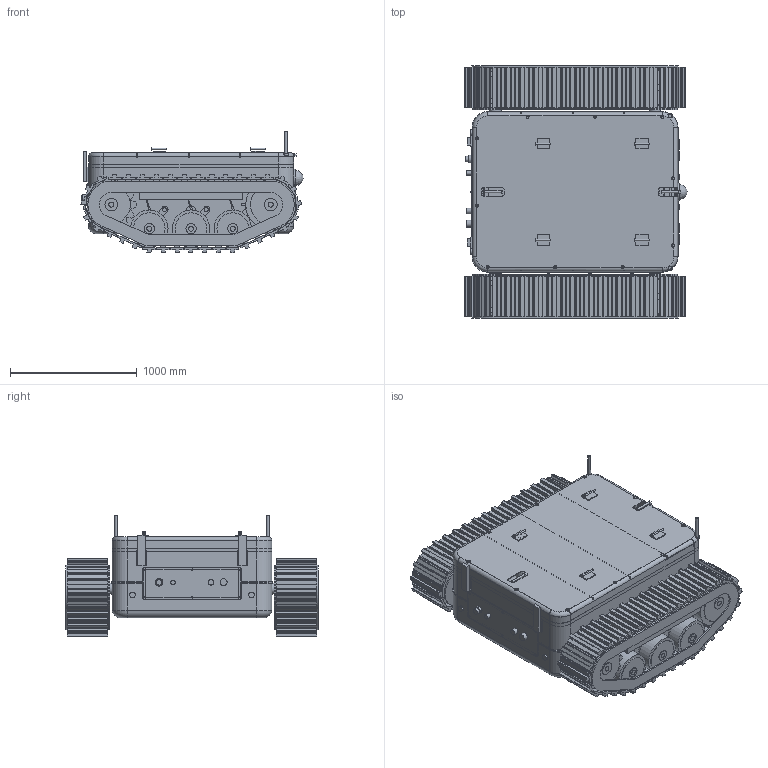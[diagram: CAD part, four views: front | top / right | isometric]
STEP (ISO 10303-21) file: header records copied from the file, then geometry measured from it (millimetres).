
FILE_DESCRIPTION(('Open CASCADE Model'),'2;1');
FILE_NAME('Open CASCADE Shape Model','2026-11-24T20:12:53',('Author'),( 'Open CASCADE'),'Open CASCADE STEP processor 7.9','Open CASCADE 7.9' ,'Unknown');
FILE_SCHEMA(('AUTOMOTIVE_DESIGN { 1 0 10303 214 1 1 1 1 }'));
Length unit declared in the file: centimetre
Products named in the file (266): AKORA_C02_TOP_COVER_CLOSED; 01_MAIN_BODY; BODY_LOWER; BODY_LOWER_TUB; BODY_JOINT_FLANGE_INNER; BODY_UPPER; BODY_UPPER_TUB; BODY_JOINT_BEAD; COVER_GASKET; COVER_GASKET_EPDM_10x8; PEDESTAL_GROMMET_600_L; PEDESTAL_GROMMET_600_R; PEDESTAL_GROMMET_1380_L; PEDESTAL_GROMMET_1380_R; SERVICE_PANEL_REAR_GASKET; COVER_INTERLOCK; COVER_SEAT_RING_FEMALE; COVER_LOCKS; COVER_QUARTER_TURN_STUD_01; COVER_RECEPTACLE_01; COVER_QUARTER_TURN_STUD_02; COVER_RECEPTACLE_02; COVER_QUARTER_TURN_STUD_03; COVER_RECEPTACLE_03; COVER_QUARTER_TURN_STUD_04; COVER_RECEPTACLE_04; COVER_QUARTER_TURN_STUD_05; COVER_RECEPTACLE_05; COVER_QUARTER_TURN_STUD_06; COVER_RECEPTACLE_06; COVER_QUARTER_TURN_STUD_07; COVER_RECEPTACLE_07; COVER_QUARTER_TURN_STUD_08; COVER_RECEPTACLE_08; COVER_QUARTER_TURN_STUD_09; COVER_RECEPTACLE_09; COVER_QUARTER_TURN_STUD_10; COVER_RECEPTACLE_10; INTERNAL_FRAME; FRAME_RAIL_L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
Assembly tree (333 placements, depth 5):
  AKORA_C02_TOP_COVER_CLOSED
    01_MAIN_BODY
      BODY_LOWER
        BODY_LOWER_TUB
        BODY_JOINT_FLANGE_INNER
      BODY_UPPER
        BODY_UPPER_TUB
        BODY_JOINT_BEAD
      COVER_GASKET
        COVER_GASKET_EPDM_10x8
        PEDESTAL_GROMMET_600_L
        PEDESTAL_GROMMET_600_R
        PEDESTAL_GROMMET_1380_L
        PEDESTAL_GROMMET_1380_R
        SERVICE_PANEL_REAR_GASKET
      COVER_INTERLOCK
        COVER_SEAT_RING_FEMALE
      COVER_LOCKS
        COVER_QUARTER_TURN_STUD_01
        COVER_RECEPTACLE_01
        COVER_QUARTER_TURN_STUD_02
        COVER_RECEPTACLE_02
        COVER_QUARTER_TURN_STUD_03
        COVER_RECEPTACLE_03
        COVER_QUARTER_TURN_STUD_04
        COVER_RECEPTACLE_04
        COVER_QUARTER_TURN_STUD_05
        COVER_RECEPTACLE_05
        COVER_QUARTER_TURN_STUD_06
        COVER_RECEPTACLE_06
        COVER_QUARTER_TURN_STUD_07
        COVER_RECEPTACLE_07
        COVER_QUARTER_TURN_STUD_08
        COVER_RECEPTACLE_08
        COVER_QUARTER_TURN_STUD_09
        COVER_RECEPTACLE_09
        COVER_QUARTER_TURN_STUD_10
        COVER_RECEPTACLE_10
      INTERNAL_FRAME
        FRAME_RAIL_L
        FRAME_RAIL_R
        FRAME_CROSS_1
        FRAME_CROSS_2
        FRAME_CROSS_3
        FRAME_CROSS_4
        FRAME_CROSS_5
        TRACK_MOTOR_PLATE_L
        TRACK_MOTOR_PLATE_R
      MOUNTING_BRACKETS
        FRAME_WALL_BRACKET_L_400
        FRAME_WALL_BRACKET_L_1300
        FRAME_WALL_BRACKET_R_400
        FRAME_WALL_BRACKET_R_1300
        P1_PEDESTAL_600_L
        P1_PEDESTAL_600_R
        P1_PEDESTAL_1380_L
        P1_PEDESTAL_1380_R
        REAR_LANDING_BRACKET_L
        REAR_LANDING_BRACKET_R
      SERVICE_PANELS
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Bounding box: 1754.89 x 1994 x 960.76 mm (x, y, z)
Volume: 489448220.6 mm3; surface area: 50376156.4 mm2
Topology: 297 solids, 301 shells, 4552 faces, 11201 edges, 7458 vertices
Faces by surface type: plane 3067, cylinder 1459, torus 16, sphere 8, revolution 2
Full cylindrical faces by diameter (mm): 8 x18, 9 x20, 9.2 x10, 10 x22, 10.5 x4, 12 x6, 13 x4, 14 x4, 16 x24, 20 x15, 22 x10, 24 x15, 28 x16, 30 x12, 32 x18, 36 x2, 40 x72, 44 x11, 48 x4, 56 x2, 60 x5, 62 x4, 72 x20, 76 x4, 80 x14, 90 x12, 100 x4, 140 x1, 160 x4, 190 x2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
Entity records: 171264 total; most frequent: CARTESIAN_POINT 35126, DIRECTION 24893, LINE 15226, VECTOR 15226, ORIENTED_EDGE 12584, PCURVE 12584, DEFINITIONAL_REPRESENTATION 12584, EDGE_CURVE 6292
